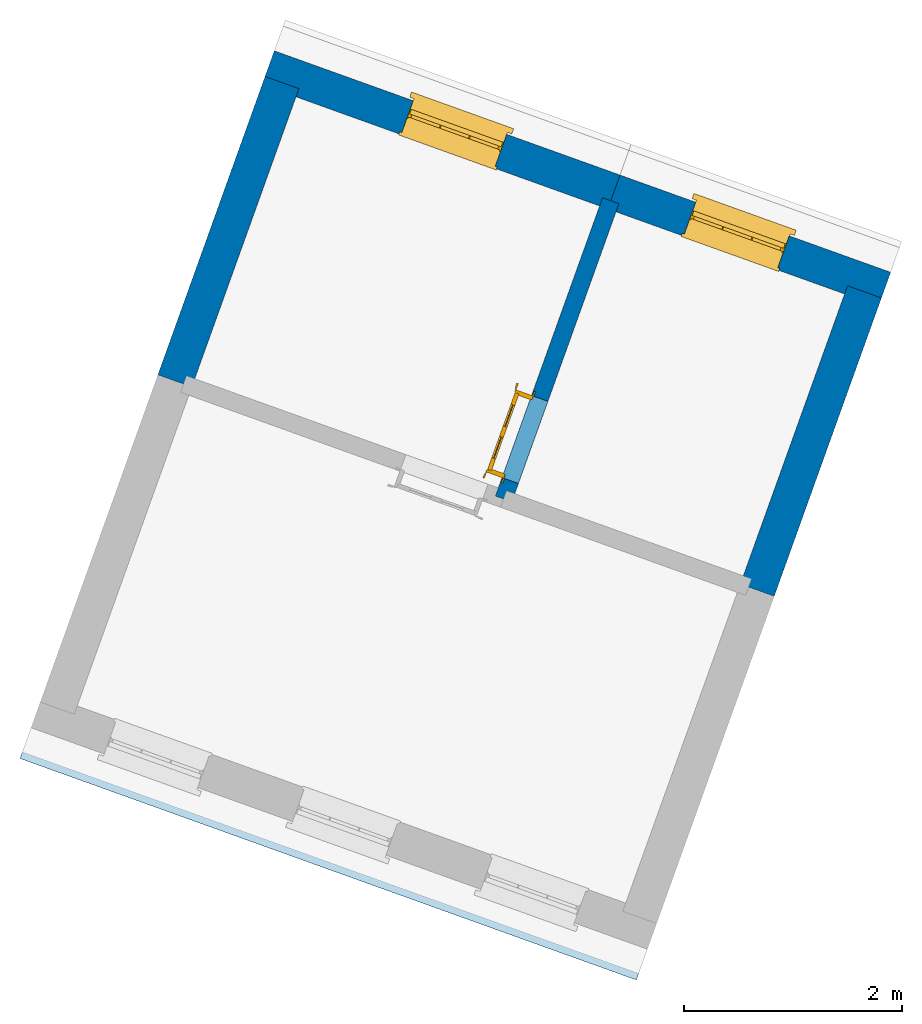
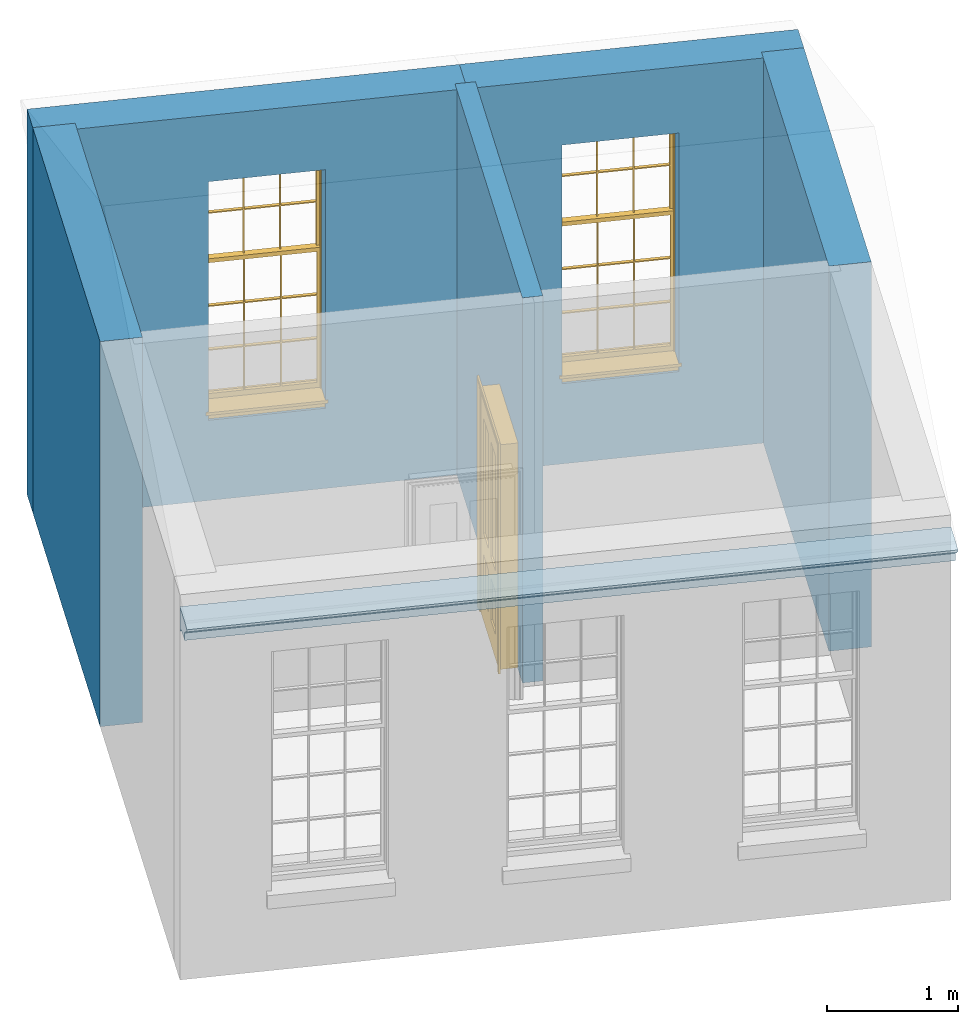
# One storey, part 2 of 3: 5 walls, 2 windows, 1 door, 1 roof, 3 openings.
"""IFC4 building model written with IfcOpenShell, lengths in metres."""

from ifc_helpers import new_model, si_unit, frame, origin, origin_with_axes, place, context, subcontext, project, spatial, polyline, outline, extrude, clip, halfspace, faceted_brep, source, transform, mapped, material, layer, layer_set, layer_usage, material_profile, profile_set, profile_usage, type_object, type_shapes, element, fill, save


model = new_model("IFC4")

# Units and contexts
model_context = context("Model", 3, world=origin_with_axes())
body_context = subcontext(model_context, "Body", "Model", "MODEL_VIEW")
ifc_project = project(units=[si_unit("PLANEANGLEUNIT", "RADIAN"), si_unit("MASSUNIT", "GRAM", prefix="KILO"), si_unit("FORCEUNIT", "NEWTON", prefix="KILO"), si_unit("LENGTHUNIT", "METRE"), si_unit("AREAUNIT", "SQUARE_METRE"), si_unit("VOLUMEUNIT", "CUBIC_METRE")], contexts=[model_context, model_context])

# Sites, building, storey
site_1_placement = place(None, origin_with_axes())
site_1 = spatial("IfcSite", under=ifc_project, at=site_1_placement, Name="Tamar")
site_2_placement = place(site_1_placement, origin_with_axes())
site_2 = spatial("IfcSite", under=site_1, at=site_2_placement, Name="Site plot-25", CompositionType="ELEMENT")
building_placement = place(None, origin_with_axes())
building = spatial("IfcBuilding", under=site_2, at=building_placement, Name="Building plot-25", CompositionType="ELEMENT")
storey_placement = place(None, frame((0.0, 0.0, 29.45), z_axis=(0.0, 0.0, 1.0), x_axis=(1.0, 0.0, 0.0)))
storey = spatial("IfcBuildingStorey", under=building, at=storey_placement, Name="plot-25 1", CompositionType="ELEMENT", Elevation=29.45)

# Wall, opening, window
ifc_material_1 = material(Name="Masonry")
ifc_layer_1 = layer(ifc_material_1, 0.33, ventilated=False)
ifc_layer_set_1 = layer_set([ifc_layer_1], Name="exterior_0.08_0.25")
ifc_layer_usage_1 = layer_usage(ifc_layer_set_1, "AXIS2", "POSITIVE", -0.25)
wall_type_1 = type_object("IfcWallType", Name="exterior_0.08_0.25", PredefinedType="SOLIDWALL", material=ifc_layer_set_1)
wall_1_placement = place(storey_placement, frame((281.492177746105, 275.936443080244, 0.0), z_axis=(0.0, 0.0, 1.0), x_axis=(-0.941087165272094, 0.338164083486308, 0.0)))
wall_1 = element("IfcWall", 1, at=wall_1_placement, inside=storey, type_object=wall_type_1, material=ifc_layer_usage_1, Name="exterior", context=body_context, shape_type="SweptSolid", body=[
    extrude(outline(polyline([(-0.250000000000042, 0.0799999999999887), (-0.250000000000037, -0.25000000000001), (2.384855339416, -0.250000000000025), (2.384855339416, 0.079999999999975), (-0.250000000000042, 0.0799999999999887)])), origin_with_axes(), (0.0, 0.0, 1.0), 3.6),
])
opening_1_placement = place(wall_1_placement, frame((0.737427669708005, 0.0, 0.75)))
opening_1 = element("IfcOpeningElement", 2, at=opening_1_placement, cuts=wall_1, Name="My Opening", ObjectType="Opening", context=body_context, shape_type="SweptSolid", body=[
    extrude(outline(polyline([(0.0, -0.269999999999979), (0.910000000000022, -0.269999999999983), (0.910000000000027, 1.10000000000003), (5.32907051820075e-15, 1.10000000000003), (0.0, -0.269999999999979)])), origin_with_axes(), (0.0, 0.0, 1.0), 2.23),
])
window_type = type_object("IfcWindowType", Name="sash_big_taller", PartitioningType="DOUBLE_PANEL_HORIZONTAL", PredefinedType="NOTDEFINED")
shared_shape_1 = source(origin(), body_context, "Body", "Brep", [
    faceted_brep([(0.033125, 0.145, 1.385209), (0.01, 0.145, 1.385209), (0.033125, 0.145, 1.786042), (0.876875, 0.145, 1.385209), (0.876875, 0.145, 1.786042), (0.9, 0.145, 1.385209), (0.876875, 0.145, 1.796042), (0.876875, 0.145, 2.196875), (0.9, 0.145, 2.22), (0.033125, 0.145, 2.196875), (0.033125, 0.145, 1.796042), (0.01, 0.145, 2.22), (0.876875, 0.115, 1.786042), (0.876875, 0.115, 1.385209), (0.9, 0.115, 1.347084), (0.033125, 0.115, 2.196875), (0.01, 0.115, 2.22), (0.033125, 0.115, 1.796042), (0.01, 0.115, 1.347084), (0.033125, 0.115, 1.385209), (0.033125, 0.115, 1.786042), (0.876875, 0.115, 2.196875), (0.876875, 0.115, 1.796042), (0.9, 0.115, 2.22), (0.033125, 0.145, 1.347084), (0.01, 0.145, 1.347084), (0.033125, 0.145, 0.94625), (0.876875, 0.145, 1.347084), (0.876875, 0.145, 0.94625), (0.9, 0.145, 1.347084), (0.876875, 0.145, 0.52625), (0.876875, 0.145, 0.125417), (0.9, 0.145, 0.077167), (0.033125, 0.145, 0.125417), (0.033125, 0.145, 0.52625), (0.01, 0.145, 0.077167), (-0.0425, 0.0, 0.01), (-0.0425, -0.05, 0.001667), (0.0, 0.0, 0.01), (0.9525, 0.0, 0.01), (0.91, 0.0, 0.01), (0.9525, -0.05, 0.001667), (-0.02, 0.33, 0.077167), (0.0, 0.33, 0.077167), (-0.02, 0.36, 0.077167), (0.0, 0.19, 0.077167), (0.01, 0.19, 0.077167), (0.91, 0.19, 0.077167), (0.91, 0.33, 0.077167), (0.9, 0.19, 0.077167), (0.93, 0.33, 0.077167), (0.93, 0.36, 0.077167), (0.01, 0.175, 1.385209), (0.9, 0.175, 1.385209), (0.876875, 0.175, 0.125417), (0.876875, 0.175, 0.52625), (0.9, 0.175, 0.077167), (0.876875, 0.175, 0.94625), (0.876875, 0.175, 1.347084), (0.033125, 0.175, 0.125417), (0.01, 0.175, 0.077167), (0.033125, 0.175, 0.52625), (0.033125, 0.175, 1.347084), (0.033125, 0.175, 0.94625), (-0.02, 0.33, 0.052167), (-0.02, 0.36, 0.052167), (0.93, 0.36, 0.052167), (0.93, 0.33, 0.052167), (0.91, 0.33, 0.052167), (0.0, 0.33, 0.052167), (0.91, 0.1, 0.026667), (0.0, 0.1, 0.026667), (-0.0425, -0.05, -0.123333), (0.9525, -0.05, -0.123333), (-0.0425, 0.0, -0.123333), (0.9525, 0.0, -0.123333), (0.01, 0.19, 2.22), (0.9, 0.19, 2.22), (0.0, 0.19, 2.23), (0.91, 0.19, 2.23), (0.01, 0.1, 0.077167), (0.9, 0.1, 0.077167), (0.592292, 0.145, 0.125417), (0.592292, 0.175, 0.125417), (0.317708, 0.175, 0.125417), (0.317708, 0.145, 0.125417), (0.592292, 0.145, 0.53625), (0.317708, 0.145, 0.53625), (0.317708, 0.145, 0.52625), (0.592292, 0.145, 0.52625), (0.592292, 0.175, 0.53625), (0.317708, 0.175, 0.53625), (0.592292, 0.115, 1.796042), (0.592292, 0.145, 1.796042), (0.317708, 0.145, 1.796042), (0.317708, 0.115, 1.796042), (0.317708, 0.115, 1.786042), (0.592292, 0.115, 1.786042), (0.317708, 0.145, 1.786042), (0.592292, 0.145, 1.786042), (0.602292, 0.115, 1.786042), (0.592292, 0.115, 1.385209), (0.602292, 0.115, 1.385209), (0.602292, 0.145, 1.385209), (0.592292, 0.145, 1.385209), (0.602292, 0.145, 1.786042), (0.876875, 0.145, 0.53625), (0.876875, 0.175, 0.53625), (0.602292, 0.175, 0.53625), (0.602292, 0.145, 0.53625), (0.317708, 0.175, 0.52625), (0.307708, 0.175, 0.125417), (0.307708, 0.175, 0.52625), (0.602292, 0.175, 0.52625), (0.602292, 0.175, 0.125417), (0.592292, 0.175, 0.52625), (0.307708, 0.175, 0.53625), (0.033125, 0.175, 0.53625), (0.317708, 0.175, 1.347084), (0.317708, 0.175, 0.94625), (0.307708, 0.175, 0.94625), (0.307708, 0.175, 1.347084), (0.602292, 0.175, 1.347084), (0.602292, 0.175, 0.94625), (0.592292, 0.175, 0.94625), (0.592292, 0.175, 1.347084), (0.307708, 0.145, 0.52625), (0.307708, 0.145, 0.125417), (0.307708, 0.145, 0.53625), (0.033125, 0.145, 0.53625), (0.307708, 0.145, 1.347084), (0.307708, 0.145, 0.94625), (0.592292, 0.145, 1.347084), (0.592292, 0.145, 0.94625), (0.317708, 0.145, 0.94625), (0.317708, 0.145, 1.347084), (0.602292, 0.145, 0.94625), (0.602292, 0.145, 1.347084), (0.602292, 0.145, 0.52625), (0.602292, 0.145, 0.125417), (0.307708, 0.115, 1.796042), (0.307708, 0.115, 1.786042), (0.307708, 0.115, 1.385209), (0.317708, 0.115, 1.385209), (0.317708, 0.115, 2.196875), (0.307708, 0.115, 2.196875), (0.602292, 0.115, 2.196875), (0.592292, 0.115, 2.196875), (0.602292, 0.115, 1.796042), (0.602292, 0.145, 1.796042), (0.307708, 0.145, 1.796042), (0.307708, 0.145, 2.196875), (0.317708, 0.145, 2.196875), (0.592292, 0.145, 2.196875), (0.602292, 0.145, 2.196875), (0.307708, 0.145, 1.786042), (0.317708, 0.145, 1.385209), (0.307708, 0.145, 1.385209), (0.876875, 0.175, 0.93625), (0.033125, 0.175, 0.93625), (0.033125, 0.145, 0.93625), (0.876875, 0.145, 0.93625), (0.91, 0.1, 2.23), (0.9, 0.1, 2.22), (0.01, 0.1, 2.22), (0.0, 0.1, 2.23), (0.91, 0.0, 0.0), (0.0, 0.0, 0.0), (0.91, 0.33, 0.0), (0.0, 0.33, 0.0), (0.317708, 0.145, 0.93625), (0.592292, 0.145, 0.93625), (0.317708, 0.175, 0.93625), (0.307708, 0.175, 0.93625), (0.602292, 0.175, 0.93625), (0.592292, 0.175, 0.93625), (0.307708, 0.145, 0.93625), (0.602292, 0.145, 0.93625)], [[[0, 1, 2]], [[3, 4, 5]], [[6, 7, 8]], [[9, 10, 11]], [[12, 13, 14]], [[15, 16, 17]], [[18, 19, 20]], [[21, 22, 23]], [[24, 25, 26]], [[27, 28, 29]], [[30, 31, 32]], [[33, 34, 35]], [[14, 27, 29]], [[25, 24, 18]], [[36, 37, 38]], [[39, 40, 41]], [[42, 43, 44]], [[45, 46, 43]], [[47, 48, 49]], [[50, 51, 48]], [[1, 0, 52]], [[5, 53, 3]], [[54, 55, 56]], [[57, 58, 53]], [[59, 60, 61]], [[62, 63, 52]], [[48, 43, 46, 49]], [[51, 44, 43, 48]], [[64, 42, 44, 65]], [[65, 44, 51, 66]], [[66, 51, 50, 67]], [[65, 66, 68, 69]], [[60, 56, 49, 46]], [[70, 71, 38, 40]], [[37, 41, 40, 38]], [[37, 72, 73, 41]], [[74, 75, 73, 72]], [[8, 11, 76, 77]], [[76, 78, 79, 77]], [[32, 35, 80, 81]], [[81, 80, 71, 70]], [[82, 83, 84, 85]], [[86, 87, 88, 89]], [[86, 90, 91, 87]], [[92, 93, 94, 95]], [[92, 95, 96, 97]], [[96, 98, 99, 97]], [[100, 97, 101, 102]], [[103, 104, 99, 105]], [[97, 99, 104, 101]], [[102, 103, 105, 100]], [[106, 107, 108, 109]], [[110, 84, 111, 112]], [[113, 114, 83, 115]], [[116, 112, 61, 117]], [[90, 115, 110, 91]], [[118, 119, 120, 121]], [[122, 123, 124, 125]], [[113, 108, 107, 55]], [[126, 112, 111, 127]], [[34, 61, 112, 126]], [[89, 115, 83, 82]], [[88, 110, 115, 89]], [[85, 84, 110, 88]], [[128, 116, 117, 129]], [[130, 121, 120, 131]], [[132, 125, 124, 133]], [[134, 119, 118, 135]], [[136, 123, 122, 137]], [[138, 113, 55, 30]], [[139, 114, 113, 138]], [[138, 30, 106, 109]], [[88, 126, 127, 85]], [[138, 89, 82, 139]], [[137, 132, 133, 136]], [[128, 129, 34, 126]], [[135, 130, 131, 134]], [[140, 17, 20, 141]], [[96, 141, 142, 143]], [[144, 145, 140, 95]], [[146, 147, 92, 148]], [[100, 12, 22, 148]], [[149, 6, 4, 105]], [[94, 150, 151, 152]], [[149, 93, 153, 154]], [[99, 98, 94, 93]], [[155, 2, 10, 150]], [[156, 157, 155, 98]], [[141, 155, 157, 142]], [[20, 2, 155, 141]], [[143, 156, 98, 96]], [[140, 150, 10, 17]], [[145, 151, 150, 140]], [[147, 153, 93, 92]], [[95, 94, 152, 144]], [[22, 6, 149, 148]], [[148, 149, 154, 146]], [[100, 105, 4, 12]], [[109, 86, 89, 138]], [[108, 113, 115, 90]], [[91, 110, 112, 116]], [[87, 128, 126, 88]], [[97, 100, 148, 92]], [[141, 96, 95, 140]], [[98, 155, 150, 94]], [[105, 99, 93, 149]], [[143, 101, 104, 156]], [[135, 118, 125, 132]], [[144, 152, 153, 147]], [[127, 111, 59, 33]], [[15, 9, 151, 145]], [[146, 154, 7, 21]], [[31, 54, 114, 139]], [[36, 74, 72, 37]], [[39, 41, 73, 75]], [[18, 14, 101, 143]], [[23, 16, 144, 147]], [[83, 56, 60, 84]], [[52, 53, 125, 118]], [[53, 52, 156, 104]], [[11, 8, 153, 152]], [[14, 18, 135, 132]], [[2, 1, 11, 10]], [[8, 5, 4, 6]], [[57, 53, 56, 158]], [[60, 52, 63, 159]], [[26, 25, 35, 160]], [[32, 29, 28, 161]], [[14, 23, 22, 12]], [[18, 20, 17, 16]], [[19, 0, 2, 20]], [[17, 10, 9, 15]], [[12, 4, 3, 13]], [[21, 7, 6, 22]], [[27, 58, 57, 28]], [[30, 55, 54, 31]], [[33, 59, 61, 34]], [[26, 63, 62, 24]], [[5, 8, 77, 53]], [[76, 11, 1, 52]], [[46, 45, 78, 76]], [[49, 77, 79, 47]], [[70, 162, 163, 81]], [[71, 80, 164, 165]], [[19, 142, 157, 0]], [[102, 13, 3, 103]], [[121, 130, 24, 62]], [[29, 32, 81, 14]], [[80, 35, 25, 18]], [[60, 46, 76, 52]], [[77, 49, 56, 53]], [[23, 14, 81, 163]], [[16, 164, 80, 18]], [[35, 85, 127]], [[127, 33, 35]], [[139, 82, 32]], [[32, 31, 139]], [[32, 82, 85, 35]], [[102, 101, 14]], [[14, 13, 102]], [[18, 143, 142]], [[142, 19, 18]], [[146, 21, 23]], [[23, 147, 146]], [[16, 15, 145]], [[145, 144, 16]], [[11, 152, 151]], [[151, 9, 11]], [[154, 153, 8]], [[8, 7, 154]], [[23, 163, 164, 16]], [[162, 165, 164, 163]], [[52, 118, 121]], [[121, 62, 52]], [[125, 53, 122]], [[58, 122, 53]], [[27, 137, 122, 58]], [[56, 83, 114]], [[114, 54, 56]], [[111, 84, 60]], [[60, 59, 111]], [[137, 27, 14]], [[14, 132, 137]], [[130, 135, 18]], [[18, 24, 130]], [[157, 156, 52]], [[52, 0, 157]], [[103, 3, 53]], [[53, 104, 103]], [[79, 78, 165, 162]], [[78, 45, 71, 165]], [[162, 70, 47, 79]], [[166, 75, 74, 167]], [[68, 66, 67]], [[48, 68, 67, 50]], [[69, 64, 65]], [[42, 64, 69, 43]], [[69, 68, 168, 169]], [[70, 68, 48, 47]], [[166, 168, 68, 70]], [[43, 69, 71, 45]], [[69, 169, 167, 71]], [[168, 166, 167, 169]], [[38, 167, 74, 36]], [[71, 167, 38]], [[39, 75, 166, 40]], [[40, 166, 70]], [[133, 134, 170, 171]], [[133, 124, 119, 134]], [[28, 57, 123, 136]], [[172, 91, 116, 173]], [[174, 108, 90, 175]], [[120, 173, 159, 63]], [[124, 175, 172, 119]], [[174, 123, 57, 158]], [[176, 173, 116, 128]], [[160, 159, 173, 176]], [[171, 175, 90, 86]], [[170, 172, 175, 171]], [[87, 91, 172, 170]], [[131, 120, 63, 26]], [[177, 174, 158, 161]], [[109, 108, 174, 177]], [[177, 161, 28, 136]], [[170, 176, 128, 87]], [[177, 171, 86, 109]], [[131, 26, 160, 176]], [[136, 133, 171, 177]], [[123, 174, 175, 124]], [[119, 172, 173, 120]], [[134, 131, 176, 170]], [[129, 117, 159, 160]], [[161, 158, 107, 106]], [[35, 34, 129]], [[35, 129, 160]], [[32, 106, 30]], [[32, 161, 106]], [[56, 55, 107]], [[56, 107, 158]], [[60, 117, 61]], [[60, 159, 117]]]),
])
type_shapes(window_type, [shared_shape_1])
window_1_placement = place(storey_placement, frame((280.889498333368, 276.439908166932, 0.75), z_axis=(0.0, 0.0, 1.0), x_axis=(-0.856389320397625, 0.307729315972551, 0.0)))
window_1 = element("IfcWindow", 3, at=window_1_placement, inside=storey, type_object=window_type, Name="toilet outside window", OverallHeight=2.23, OverallWidth=0.91, context=body_context, shape_type="MappedRepresentation", body=[
    mapped(shared_shape_1, transform((0.0, 0.0, 0.0), scale=1.0)),
])
fill(opening_1, window_1)

wall_2_placement = place(storey_placement, frame((279.24782099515, 276.742915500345, 0.0), z_axis=(0.0, 0.0, 1.0), x_axis=(-0.941087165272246, 0.338164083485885, 0.0)))
wall_2 = element("IfcWall", 4, at=wall_2_placement, inside=storey, type_object=wall_type_1, material=ifc_layer_usage_1, Name="exterior", context=body_context, shape_type="SweptSolid", body=[
    extrude(outline(polyline([(1.79461026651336e-14, 0.0799999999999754), (-1.25495404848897e-13, -0.250000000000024), (3.36514466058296, -0.250000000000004), (3.36514466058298, 0.0800000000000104), (1.79461026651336e-14, 0.0799999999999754)])), origin_with_axes(), (0.0, 0.0, 1.0), 3.6),
])
opening_2_placement = place(wall_2_placement, frame((1.10257233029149, 0.0, 0.75)))
opening_2 = element("IfcOpeningElement", 5, at=opening_2_placement, cuts=wall_2, Name="My Opening", ObjectType="Opening", context=body_context, shape_type="SweptSolid", body=[
    extrude(outline(polyline([(0.0, -0.270000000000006), (0.910000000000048, -0.269999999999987), (0.910000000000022, 1.09999999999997), (-2.57571741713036e-14, 1.09999999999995), (0.0, -0.270000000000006)])), origin_with_axes(), (0.0, 0.0, 1.0), 2.23),
])
window_2_placement = place(storey_placement, frame((278.30150862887, 277.369859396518, 0.75), z_axis=(0.0, 0.0, 1.0), x_axis=(-0.856389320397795, 0.307729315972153, 0.0)))
window_2 = element("IfcWindow", 6, at=window_2_placement, inside=storey, type_object=window_type, Name="circulation outside window", OverallHeight=2.23, OverallWidth=0.91, context=body_context, shape_type="MappedRepresentation", body=[
    mapped(shared_shape_1, transform((0.0, 0.0, 0.0), scale=1.0)),
])
fill(opening_2, window_2)

# Walls
ifc_material_2 = material(Name="Masonry")
ifc_layer_2 = layer(ifc_material_2, 0.33, ventilated=False)
ifc_layer_set_2 = layer_set([ifc_layer_2], Name="party_0.08_0.25")
ifc_layer_usage_2 = layer_usage(ifc_layer_set_2, "AXIS2", "POSITIVE", -0.25)
wall_type_2 = type_object("IfcWallType", Name="party_0.08_0.25", PredefinedType="SOLIDWALL", material=ifc_layer_set_2)
wall_3_placement = place(storey_placement, frame((280.510084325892, 273.203345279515, 0.0), z_axis=(0.0, 0.0, 1.0), x_axis=(0.33816408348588, 0.941087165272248, 0.0)))
element("IfcWall", 7, at=wall_3_placement, inside=storey, type_object=wall_type_2, material=ifc_layer_usage_2, Name="party", context=body_context, shape_type="SweptSolid", body=[
    extrude(outline(polyline([(1.83546647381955e-14, 0.0799999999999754), (-7.34259449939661e-14, -0.250000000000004), (2.90419198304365, -0.249999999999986), (2.90419198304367, 0.0800000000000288), (1.83546647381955e-14, 0.0799999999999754)])), origin_with_axes(), (0.0, 0.0, 1.0), 3.6),
])
wall_4_placement = place(storey_placement, frame((276.316198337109, 277.796345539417, 0.0), z_axis=(0.0, 0.0, 1.0), x_axis=(-0.338164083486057, -0.941087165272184, 0.0)))
element("IfcWall", 8, at=wall_4_placement, inside=storey, type_object=wall_type_2, material=ifc_layer_usage_2, Name="party", context=body_context, shape_type="SweptSolid", body=[
    extrude(outline(polyline([(3.39590937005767e-15, 0.0799999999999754), (-2.66300445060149e-14, -0.250000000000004), (2.90419198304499, -0.250000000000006), (2.90419198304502, 0.0799999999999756), (3.39590937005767e-15, 0.0799999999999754)])), origin_with_axes(), (0.0, 0.0, 1.0), 3.6),
])

# Wall, opening, door
ifc_material_3 = material(Name="Masonry")
ifc_layer_3 = layer(ifc_material_3, 0.16, ventilated=False)
ifc_layer_set_3 = layer_set([ifc_layer_3], Name="interior_0.08_0.08")
ifc_layer_usage_3 = layer_usage(ifc_layer_set_3, "AXIS2", "POSITIVE", -0.08)
wall_type_3 = type_object("IfcWallType", Name="interior_0.08_0.08", PredefinedType="SOLIDWALL", material=ifc_layer_set_3)
wall_5_placement = place(storey_placement, frame((278.265727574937, 274.009817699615, 0.0), z_axis=(0.0, 0.0, 1.0), x_axis=(0.338164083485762, 0.94108716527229, 0.0)))
wall_5 = element("IfcWall", 9, at=wall_5_placement, inside=storey, type_object=wall_type_3, material=ifc_layer_usage_3, Name="interior", context=body_context, shape_type="SweptSolid", body=[
    extrude(outline(polyline([(9.18866344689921e-15, 0.0800000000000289), (-9.17886627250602e-15, -0.0800000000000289), (2.90419198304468, -0.0800000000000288), (2.9041919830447, 0.0800000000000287), (9.18866344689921e-15, 0.0800000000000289)])), origin_with_axes(), (0.0, 0.0, 1.0), 3.6),
])
opening_3_placement = place(wall_5_placement, frame((0.180000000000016, 0.0, 0.0199999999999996)))
opening_3 = element("IfcOpeningElement", 10, at=opening_3_placement, cuts=wall_5, Name="My Opening", ObjectType="Opening", context=body_context, shape_type="SweptSolid", body=[
    extrude(outline(polyline([(0.0, -0.0999999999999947), (0.800000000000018, -0.100000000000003), (0.800000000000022, 1.09999999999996), (4.55191440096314e-15, 1.09999999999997), (0.0, -0.0999999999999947)])), origin_with_axes(), (0.0, 0.0, 1.0), 2.1),
])
door_type = type_object("IfcDoorType", Name="door_inside", OperationType="SINGLE_SWING_LEFT", PredefinedType="NOTDEFINED")
shared_shape_2 = source(origin(), body_context, "Body", "Brep", [
    faceted_brep([(0.773, 0.33, 1.895), (0.66, 0.33, 1.895), (0.66, 0.33, 2.073), (0.773, 0.33, 2.073), (0.773, 0.33, 0.82), (0.66, 0.33, 0.82), (0.45, 0.33, 1.895), (0.45, 0.33, 2.073), (0.773, 0.33, 0.62), (0.66, 0.33, 0.62), (0.66, 0.315, 0.82), (0.66, 0.315, 1.895), (0.45, 0.315, 1.895), (0.35, 0.33, 1.895), (0.35, 0.33, 2.073), (0.773, 0.33, 0.225), (0.66, 0.33, 0.225), (0.45, 0.33, 0.62), (0.45, 0.33, 0.82), (0.45, 0.315, 0.82), (0.35, 0.33, 0.82), (0.14, 0.33, 2.073), (0.14, 0.33, 1.895), (0.773, 0.33, 0.0), (0.66, 0.33, 0.0), (0.66, 0.315, 0.225), (0.66, 0.315, 0.62), (0.45, 0.315, 0.62), (0.35, 0.33, 0.62), (0.35, 0.315, 0.82), (0.35, 0.315, 1.895), (0.14, 0.315, 1.895), (0.027, 0.33, 2.073), (0.027, 0.33, 1.895), (0.773, 0.292, 0.0), (0.66, 0.292, 0.0), (0.45, 0.33, 0.0), (0.45, 0.33, 0.225), (0.45, 0.315, 0.225), (0.35, 0.33, 0.225), (0.14, 0.33, 0.82), (0.14, 0.33, 0.62), (0.14, 0.315, 0.82), (0.027, 0.33, 0.82), (0.773, 0.292, 0.225), (0.66, 0.292, 0.225), (0.45, 0.292, 0.0), (0.35, 0.33, 0.0), (0.35, 0.315, 0.225), (0.35, 0.315, 0.62), (0.14, 0.315, 0.62), (0.027, 0.33, 0.62), (0.773, 0.292, 0.62), (0.66, 0.292, 0.62), (0.45, 0.292, 0.225), (0.35, 0.292, 0.0), (0.14, 0.33, 0.225), (0.14, 0.33, 0.0), (0.14, 0.315, 0.225), (0.027, 0.33, 0.225), (0.773, 0.292, 0.82), (0.66, 0.292, 0.82), (0.66, 0.307, 0.62), (0.66, 0.307, 0.225), (0.45, 0.307, 0.225), (0.35, 0.292, 0.225), (0.14, 0.292, 0.0), (0.027, 0.33, 0.0), (0.773, 0.292, 1.895), (0.66, 0.292, 1.895), (0.45, 0.292, 0.62), (0.45, 0.292, 0.82), (0.45, 0.307, 0.62), (0.35, 0.292, 0.62), (0.14, 0.292, 0.225), (0.027, 0.292, 0.0), (0.773, 0.292, 2.073), (0.66, 0.292, 2.073), (0.66, 0.307, 1.895), (0.66, 0.307, 0.82), (0.45, 0.307, 0.82), (0.35, 0.292, 0.82), (0.35, 0.307, 0.62), (0.35, 0.307, 0.225), (0.14, 0.307, 0.225), (0.027, 0.292, 0.225), (0.45, 0.292, 1.895), (0.45, 0.292, 2.073), (0.45, 0.307, 1.895), (0.35, 0.292, 1.895), (0.14, 0.292, 0.82), (0.14, 0.292, 0.62), (0.14, 0.307, 0.62), (0.027, 0.292, 0.62), (0.35, 0.292, 2.073), (0.35, 0.307, 1.895), (0.35, 0.307, 0.82), (0.14, 0.307, 0.82), (0.027, 0.292, 0.82), (0.14, 0.292, 2.073), (0.14, 0.292, 1.895), (0.14, 0.307, 1.895), (0.027, 0.292, 1.895), (0.027, 0.292, 2.073), (0.02, 0.335, 0.0), (0.005, 0.34, 0.0), (0.005, 0.34, 2.095), (0.02, 0.335, 2.08), (0.02, 0.33, 0.0), (0.0, 0.335, 0.0), (0.0, 0.335, 2.1), (0.795, 0.34, 2.095), (0.78, 0.335, 2.08), (0.02, 0.33, 2.08), (0.0, 0.33, 0.0), (-0.032, 0.345, 0.0), (-0.032, 0.345, 2.132), (0.8, 0.335, 2.1), (0.795, 0.34, 0.0), (0.78, 0.335, 0.0), (0.78, 0.33, 2.08), (0.04, 0.29, 0.0), (0.025, 0.29, 0.0), (0.025, 0.29, 2.075), (0.04, 0.29, 2.06), (-0.04, 0.34, 0.0), (-0.04, 0.34, 2.14), (0.832, 0.345, 2.132), (0.8, 0.335, 0.0), (0.78, 0.33, 0.0), (0.8, 0.33, 0.0), (0.86, 0.33, 0.0), (0.86, 0.33, 2.16), (0.8, 0.33, 2.1), (-0.06, 0.33, 2.16), (0.0, 0.33, 2.1), (-0.06, 0.33, 0.0), (-0.04, 0.345, 0.0), (-0.04, 0.345, 2.14), (0.84, 0.34, 2.14), (0.832, 0.345, 0.0), (0.84, 0.34, 0.0), (0.86, 0.345, 0.0), (0.86, 0.345, 2.16), (-0.06, 0.345, 2.16), (-0.06, 0.345, 0.0), (0.84, 0.345, 0.0), (0.84, 0.345, 2.14), (-0.025, 0.155, 0.0), (-0.025, 0.16, 0.0), (-0.025, 0.16, 2.125), (-0.025, 0.155, 2.125), (-0.017, 0.155, 0.0), (-0.017, 0.155, 2.117), (0.825, 0.16, 2.125), (0.825, 0.155, 2.125), (0.825, 0.155, 0.0), (0.845, 0.155, 0.0), (-0.045, 0.155, 2.145), (-0.045, 0.155, 0.0), (0.845, 0.155, 2.145), (0.015, 0.165, 0.0), (0.015, 0.165, 2.085), (0.817, 0.155, 2.117), (0.825, 0.16, 0.0), (0.845, 0.17, 0.0), (0.845, 0.17, 2.145), (-0.045, 0.17, 2.145), (-0.045, 0.17, 0.0), (0.02, 0.16, 0.0), (0.02, 0.16, 2.08), (0.785, 0.165, 2.085), (0.817, 0.155, 0.0), (0.8, 0.17, 0.0), (0.8, 0.17, 2.1), (0.0, 0.17, 2.1), (0.0, 0.17, 0.0), (0.035, 0.165, 0.0), (0.035, 0.165, 2.065), (0.78, 0.16, 2.08), (0.785, 0.165, 0.0), (0.775, 0.29, 2.075), (0.76, 0.29, 2.06), (0.035, 0.17, 2.065), (0.035, 0.17, 0.0), (0.765, 0.165, 2.065), (0.78, 0.16, 0.0), (0.765, 0.17, 0.0), (0.765, 0.17, 2.065), (0.765, 0.165, 0.0), (0.04, 0.17, 2.06), (0.04, 0.17, 0.0), (0.76, 0.17, 2.06), (0.76, 0.17, 0.0), (0.76, 0.29, 0.0), (0.775, 0.29, 0.0), (0.025, 0.33, 0.0), (0.025, 0.33, 2.075), (0.775, 0.33, 0.0), (0.775, 0.33, 2.075)], [[[0, 1, 2, 3]], [[1, 0, 4, 5]], [[1, 6, 7, 2]], [[8, 9, 5, 4]], [[1, 5, 10, 11]], [[6, 1, 11, 12]], [[6, 13, 14, 7]], [[15, 16, 9, 8]], [[9, 17, 18, 5]], [[5, 18, 19, 10]], [[10, 19, 12, 11]], [[18, 6, 12, 19]], [[18, 20, 13, 6]], [[21, 14, 13, 22]], [[23, 24, 16, 15]], [[9, 16, 25, 26]], [[17, 9, 26, 27]], [[17, 28, 20, 18]], [[13, 20, 29, 30]], [[22, 13, 30, 31]], [[32, 21, 22, 33]], [[34, 35, 24, 23]], [[24, 36, 37, 16]], [[16, 37, 38, 25]], [[25, 38, 27, 26]], [[37, 17, 27, 38]], [[37, 39, 28, 17]], [[40, 20, 28, 41]], [[20, 40, 42, 29]], [[31, 30, 29, 42]], [[40, 22, 31, 42]], [[33, 22, 40, 43]], [[35, 34, 44, 45]], [[35, 46, 36, 24]], [[36, 47, 39, 37]], [[28, 39, 48, 49]], [[41, 28, 49, 50]], [[43, 40, 41, 51]], [[45, 44, 52, 53]], [[46, 35, 45, 54]], [[46, 55, 47, 36]], [[56, 39, 47, 57]], [[39, 56, 58, 48]], [[50, 49, 48, 58]], [[56, 41, 50, 58]], [[51, 41, 56, 59]], [[53, 52, 60, 61]], [[45, 53, 62, 63]], [[54, 45, 63, 64]], [[55, 46, 54, 65]], [[55, 66, 57, 47]], [[59, 56, 57, 67]], [[61, 60, 68, 69]], [[70, 53, 61, 71]], [[53, 70, 72, 62]], [[72, 64, 63, 62]], [[70, 54, 64, 72]], [[65, 54, 70, 73]], [[65, 74, 66, 55]], [[67, 57, 66, 75]], [[69, 68, 76, 77]], [[61, 69, 78, 79]], [[71, 61, 79, 80]], [[73, 70, 71, 81]], [[65, 73, 82, 83]], [[74, 65, 83, 84]], [[74, 85, 75, 66]], [[86, 69, 77, 87]], [[69, 86, 88, 78]], [[88, 80, 79, 78]], [[86, 71, 80, 88]], [[81, 71, 86, 89]], [[73, 81, 90, 91]], [[73, 91, 92, 82]], [[83, 82, 92, 84]], [[91, 74, 84, 92]], [[91, 93, 85, 74]], [[89, 86, 87, 94]], [[81, 89, 95, 96]], [[90, 81, 96, 97]], [[90, 98, 93, 91]], [[94, 99, 100, 89]], [[89, 100, 101, 95]], [[101, 97, 96, 95]], [[100, 90, 97, 101]], [[100, 102, 98, 90]], [[99, 103, 102, 100]], [[32, 103, 99, 21]], [[102, 103, 32, 33]], [[98, 102, 33, 43]], [[21, 99, 94, 14]], [[94, 87, 7, 14]], [[7, 87, 77, 2]], [[76, 3, 2, 77]], [[43, 51, 93, 98]], [[51, 59, 85, 93]], [[67, 75, 85, 59]], [[34, 23, 15, 44]], [[44, 15, 8, 52]], [[52, 8, 4, 60]], [[0, 68, 60, 4]], [[0, 3, 76, 68]], [[104, 105, 106, 107]], [[104, 108, 109, 105]], [[105, 109, 110, 106]], [[107, 106, 111, 112]], [[107, 113, 108, 104]], [[114, 109, 108]], [[109, 115, 116, 110]], [[106, 110, 117, 111]], [[112, 111, 118, 119]], [[113, 107, 112, 120]], [[121, 122, 123, 124]], [[115, 109, 114, 125]], [[115, 125, 126, 116]], [[110, 116, 127, 117]], [[111, 117, 128, 118]], [[118, 128, 129, 119]], [[120, 112, 119, 129]], [[130, 129, 128]], [[130, 131, 132, 133]], [[133, 132, 134, 135]], [[135, 134, 136, 114]], [[136, 125, 114]], [[125, 137, 138, 126]], [[116, 126, 139, 127]], [[117, 127, 140, 128]], [[141, 130, 128, 140]], [[131, 130, 141]], [[131, 142, 143, 132]], [[132, 143, 144, 134]], [[134, 144, 145, 136]], [[137, 125, 136, 145]], [[143, 142, 146]], [[143, 146, 147]], [[137, 145, 144]], [[143, 147, 138]], [[138, 137, 144]], [[143, 138, 144]], [[126, 138, 147, 139]], [[127, 139, 141, 140]], [[142, 131, 141, 146]], [[139, 147, 146, 141]], [[148, 149, 150, 151]], [[149, 152, 153, 150]], [[151, 150, 154, 155]], [[155, 156, 157]], [[158, 159, 148]], [[158, 148, 151]], [[155, 157, 160]], [[158, 151, 155]], [[155, 160, 158]], [[152, 161, 162, 153]], [[150, 153, 163, 154]], [[155, 154, 164, 156]], [[156, 164, 165, 157]], [[157, 165, 166, 160]], [[160, 166, 167, 158]], [[158, 167, 168, 159]], [[161, 169, 170, 162]], [[153, 162, 171, 163]], [[154, 163, 172, 164]], [[165, 164, 173]], [[165, 173, 174, 166]], [[166, 174, 175, 167]], [[167, 175, 176, 168]], [[169, 177, 178, 170]], [[162, 170, 179, 171]], [[163, 171, 180, 172]], [[172, 180, 173, 164]], [[124, 123, 181, 182]], [[183, 178, 177, 184]], [[170, 178, 185, 179]], [[171, 179, 186, 180]], [[187, 173, 180]], [[185, 188, 187, 189]], [[188, 185, 178, 183]], [[179, 185, 189, 186]], [[189, 187, 180, 186]], [[190, 183, 184, 191]], [[192, 188, 183, 190]], [[191, 184, 122, 121]], [[124, 190, 191, 121]], [[193, 187, 188, 192]], [[182, 192, 190, 124]], [[184, 176, 122]], [[194, 195, 187, 193]], [[192, 182, 194, 193]], [[161, 176, 184]], [[114, 108, 122, 176]], [[173, 187, 195]], [[152, 149, 176, 161]], [[169, 161, 184, 177]], [[196, 122, 108]], [[176, 175, 135, 114]], [[173, 195, 129, 130]], [[176, 149, 168]], [[123, 122, 196, 197]], [[196, 108, 113, 197]], [[175, 174, 133, 135]], [[198, 129, 195]], [[133, 174, 173, 130]], [[159, 168, 149, 148]], [[181, 123, 197, 199]], [[197, 113, 120, 199]], [[199, 120, 129, 198]], [[195, 181, 199, 198]], [[195, 194, 182, 181]]]),
])
type_shapes(door_type, [shared_shape_2])
door_placement = place(storey_placement, frame((278.420705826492, 274.145396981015, 0.0199999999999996), z_axis=(0.0, 0.0, 1.0), x_axis=(0.270531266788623, 0.752869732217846, 0.0)))
door = element("IfcDoor", 11, at=door_placement, inside=storey, type_object=door_type, Name="toilet inside door", OverallHeight=2.1, OverallWidth=0.8, context=body_context, shape_type="MappedRepresentation", body=[
    mapped(shared_shape_2, transform((0.0, 0.0, 0.0), scale=1.0)),
])
fill(opening_3, door)

# Roof
ifc_material_profile = material_profile(None, outline(polyline([(0.25, -0.11), (0.25, -0.33), (0.265, -0.33), (0.268, -0.318), (0.274, -0.309), (0.283, -0.303), (0.295, -0.3), (0.295, -0.285), (0.455, -0.285), (0.455, -0.205), (0.47, -0.205), (0.47, -0.19), (0.483, -0.189), (0.494, -0.186), (0.506, -0.179), (0.514, -0.17), (0.52, -0.16), (0.529, -0.149), (0.539, -0.143), (0.55, -0.14), (0.55, -0.12), (0.48, -0.11), (0.25, -0.11)])))
ifc_profile_set = profile_set([ifc_material_profile])
ifc_profile_usage = profile_usage(ifc_profile_set)
roof_type = type_object("IfcRoofType", Name="eaves_0", PredefinedType="FREEFORM", material=ifc_profile_set)
roof_placement = place(storey_placement, frame((280.609322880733, 269.783088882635, 3.6), z_axis=(-0.941087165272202, 0.338164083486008, 0.0), x_axis=(-0.338164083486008, -0.941087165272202, 0.0)))
element("IfcRoof", 12, at=roof_placement, inside=storey, type_object=roof_type, material=ifc_profile_usage, Name="eaves_0", context=body_context, shape_type="Clipping", body=[
    clip(clip(extrude(outline(polyline([(0.25, -0.11), (0.25, -0.33), (0.265, -0.33), (0.268, -0.318), (0.274, -0.309), (0.283, -0.303), (0.295, -0.3), (0.295, -0.285), (0.455, -0.285), (0.455, -0.205), (0.47, -0.205), (0.47, -0.19), (0.483, -0.189), (0.494, -0.186), (0.506, -0.179), (0.514, -0.17), (0.52, -0.16), (0.529, -0.149), (0.539, -0.143), (0.55, -0.14), (0.55, -0.12), (0.48, -0.11), (0.25, -0.11)])), origin_with_axes(), (0.0, 0.0, 1.0), 7.99999999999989), halfspace(frame((0.0, 0.0, 6.99999999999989), z_axis=(-2.13775144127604e-14, 0.0, -1.0), x_axis=(0.0, 1.0, 0.0)), True)), halfspace(frame((0.0, 0.0, 1.0), z_axis=(-2.13775144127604e-14, 0.0, -1.0), x_axis=(0.0, 1.0, 0.0)), False)),
])

save(model, "model.ifc")
